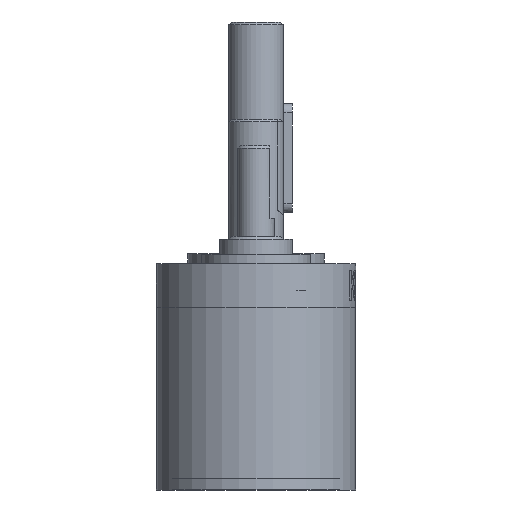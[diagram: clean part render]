
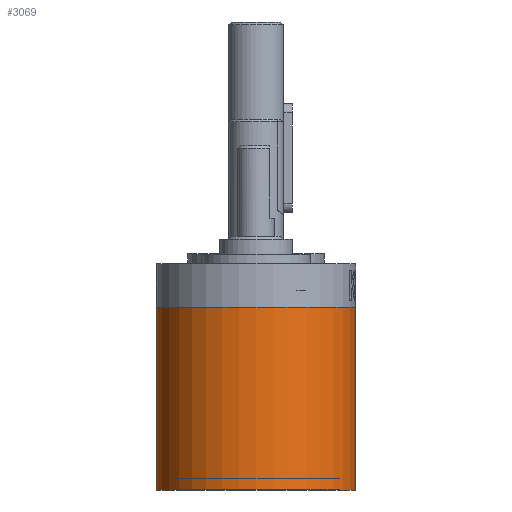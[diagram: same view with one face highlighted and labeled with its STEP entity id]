
A CAD part, left-side view. The second image highlights one B-rep face of the part: STEP entity #3069.
In plain terms, the highlighted cylindrical face has radius 11 mm (diameter 22 mm), a full revolution.
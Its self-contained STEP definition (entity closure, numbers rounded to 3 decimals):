
#2005=FACE_BOUND('',#4742,.T.);
#2006=FACE_BOUND('',#4743,.T.);
#2365=CYLINDRICAL_SURFACE('',#11499,11.);
#3069=ADVANCED_FACE('',(#2005,#2006),#2365,.T.);
#4742=EDGE_LOOP('',(#7601));
#4743=EDGE_LOOP('',(#7602));
#5345=CIRCLE('',#11497,11.);
#5346=CIRCLE('',#11498,11.);
#7601=ORIENTED_EDGE('',*,*,#9951,.F.);
#7602=ORIENTED_EDGE('',*,*,#9952,.T.);
#8833=VERTEX_POINT('',#28840);
#8834=VERTEX_POINT('',#28842);
#9951=EDGE_CURVE('',#8833,#8833,#5345,.T.);
#9952=EDGE_CURVE('',#8834,#8834,#5346,.T.);
#11497=AXIS2_PLACEMENT_3D('',#28839,#13392,#13393);
#11498=AXIS2_PLACEMENT_3D('',#28841,#13394,#13395);
#11499=AXIS2_PLACEMENT_3D('',#28843,#13396,#13397);
#13392=DIRECTION('',(0.,0.,-1.));
#13393=DIRECTION('',(1.,0.,0.));
#13394=DIRECTION('',(0.,0.,-1.));
#13395=DIRECTION('',(1.,0.,0.));
#13396=DIRECTION('',(0.,0.,1.));
#13397=DIRECTION('',(1.,0.,0.));
#28839=CARTESIAN_POINT('',(-24.,0.,0.));
#28840=CARTESIAN_POINT('',(-13.,0.,0.));
#28841=CARTESIAN_POINT('',(-24.,0.,20.099));
#28842=CARTESIAN_POINT('',(-13.,0.,20.099));
#28843=CARTESIAN_POINT('',(-24.,0.,19.7));
